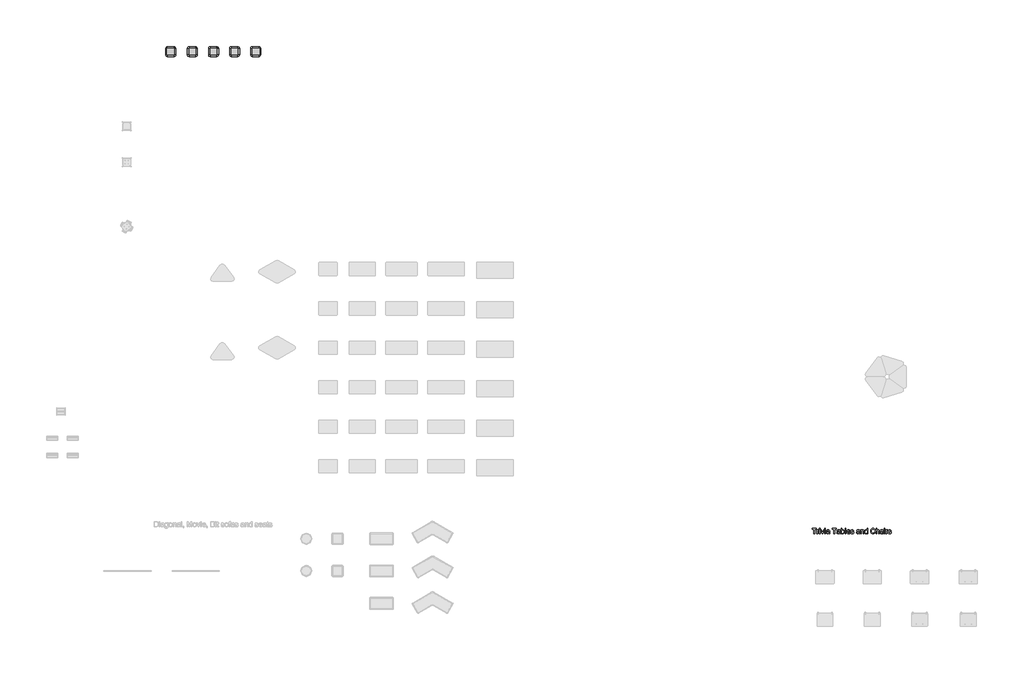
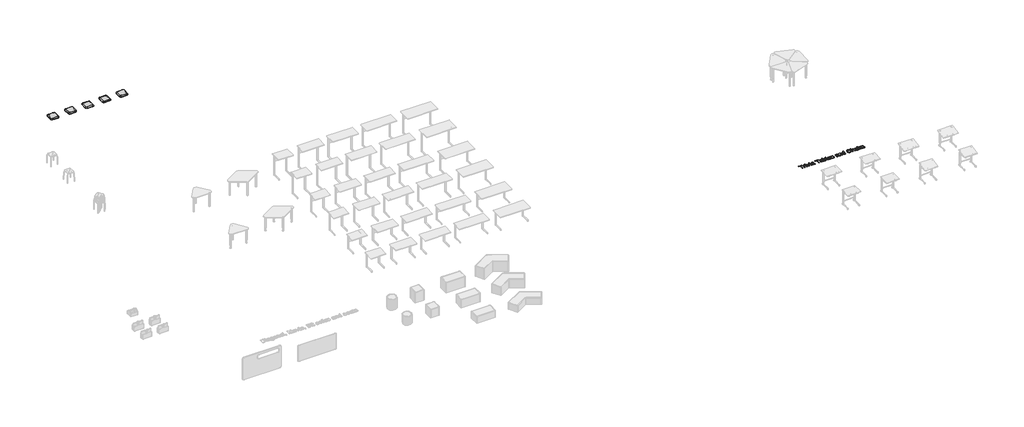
# One storey, part 3 of 3: 6 proxies.
"""IFC4 building model written with IfcOpenShell, lengths in millimetres."""

from ifc_helpers import new_model, si_unit, origin, origin_with_axes, place, context, project, spatial, polyline, outline, extrude, transform, mapped, element, save
from components import family1_family1_ad3effce

model = new_model("IFC4")

# Units and contexts
model_context = context("Model", 3, world=origin())
ifc_project = project(units=[si_unit("LENGTHUNIT", "METRE", prefix="MILLI")], contexts=[model_context])

# Site, building, storey
site = spatial("IfcSite", under=ifc_project)
building = spatial("IfcBuilding", under=site)
storey = spatial("IfcBuildingStorey", under=building, Name="Diagonal, Movie, Bit sofas and seats", Elevation=0.0)

# Proxies
placement = place(None, origin())
element("IfcBuildingElementProxy", 1, Name="200mm Arial", ObjectType="200mm Arial", at=placement, inside=storey, context=model_context, shape_type="SweptSolid", body=[
    extrude(outline(polyline([(-1376.2423033, 19310.0596878), (-1376.2423033, 19485.8582306), (-1442.1667568, 19485.8582306), (-1442.1667568, 19510.9723081), (-1285.2037722, 19510.9723081), (-1285.2037722, 19485.8582306), (-1351.1282257, 19485.8582306), (-1351.1282257, 19310.0596878), (-1376.2423033, 19310.0596878)])), origin_with_axes(), (0.0, 0.0, 1.0), 10.0),
    extrude(outline(polyline([(-1260.0896946, 19310.0596878), (-1260.0896946, 19457.6048934), (-1238.1148768, 19457.6048934), (-1238.1148768, 19435.7772283), (-1222.5166802, 19455.8881107), (-1206.8203817, 19460.7441531), (-1194.3123939, 19458.8066412), (-1181.6082023, 19452.9941057), (-1189.9959118, 19430.4797276), (-1207.6542476, 19435.6300755), (-1221.8544926, 19430.6759313), (-1230.9043897, 19416.9416702), (-1234.9756171, 19387.6092124), (-1234.9756171, 19310.0596878), (-1260.0896946, 19310.0596878)])), origin_with_axes(), (0.0, 0.0, 1.0), 10.0),
    extrude(outline(polyline([(-1165.9119039, 19485.8582306), (-1165.9119039, 19510.9723081), (-1140.7978263, 19510.9723081), (-1140.7978263, 19485.8582306), (-1165.9119039, 19485.8582306)])), origin_with_axes(), (0.0, 0.0, 1.0), 10.0),
    extrude(outline(polyline([(-1165.9119039, 19310.0596878), (-1165.9119039, 19457.6048934), (-1140.7978263, 19457.6048934), (-1140.7978263, 19310.0596878), (-1165.9119039, 19310.0596878)])), origin_with_axes(), (0.0, 0.0, 1.0), 10.0),
    extrude(outline(polyline([(-1066.9271217, 19310.0596878), (-1118.8230085, 19457.6048934), (-1092.237403, 19457.6048934), (-1060.7957551, 19369.2151127), (-1051.3289251, 19339.4902475), (-1042.0582988, 19367.5473809), (-1010.4204472, 19457.6048934), (-983.8348417, 19457.6048934), (-1035.0930664, 19310.0596878), (-1066.9271217, 19310.0596878)])), origin_with_axes(), (0.0, 0.0, 1.0), 10.0),
    extrude(outline(polyline([(-961.8600239, 19310.0596878), (-961.8600239, 19457.6048934), (-936.7459463, 19457.6048934), (-936.7459463, 19310.0596878), (-961.8600239, 19310.0596878)])), origin_with_axes(), (0.0, 0.0, 1.0), 10.0),
    extrude(outline(polyline([(-961.8600239, 19485.8582306), (-961.8600239, 19510.9723081), (-936.7459463, 19510.9723081), (-936.7459463, 19485.8582306), (-961.8600239, 19485.8582306)])), origin_with_axes(), (0.0, 0.0, 1.0), 10.0),
    extrude(outline(polyline([(-804.8970393, 19328.895246), (-829.2508274, 19311.8745723), (-856.1552639, 19306.9204281), (-877.1429318, 19309.9002723), (-892.6246324, 19318.8398048), (-902.1711702, 19332.4146504), (-905.3533494, 19349.300434), (-900.546358, 19369.1660617), (-887.9157429, 19383.5870359), (-870.3309835, 19391.8275926), (-848.6014203, 19395.6045144), (-805.0441921, 19404.2374786), (-804.8970393, 19409.8292849), (-806.6260847, 19421.037423), (-811.8132208, 19428.3705375), (-823.4137664, 19433.815191), (-839.5760487, 19435.6300755), (-854.5365832, 19434.4221963), (-864.9844318, 19430.7985587), (-872.1090798, 19424.096975), (-877.1000122, 19413.6552577), (-902.2140897, 19416.7945174), (-891.3493081, 19441.3199837), (-882.0909446, 19449.5728031), (-869.4725922, 19455.691907), (-836.3386871, 19460.7441531), (-805.9025834, 19456.2805182), (-788.7102315, 19445.0723801), (-781.0092351, 19428.027181), (-779.7829617, 19406.0523631), (-779.7829617, 19374.806919), (-778.5076375, 19331.1761144), (-773.5044424, 19310.0596878), (-798.6185199, 19310.0596878), (-804.8970393, 19328.895246)]), holes=[polyline([(-804.8970393, 19379.1234011), (-845.4131097, 19371.4224046), (-867.0200455, 19367.3511772), (-876.8057066, 19360.7293013), (-880.2392719, 19351.0662676), (-878.3692051, 19343.5982631), (-872.7590047, 19337.4791592), (-863.5312979, 19333.3956691), (-850.8087123, 19332.0345057), (-837.3197058, 19333.5366905), (-825.4003291, 19338.0432449), (-809.0173176, 19352.5868465), (-805.0441921, 19372.0110158), (-804.8970393, 19379.1234011)])]), origin_with_axes(), (0.0, 0.0, 1.0), 10.0),
    extrude(outline(polyline([(-613.4021981, 19310.0596878), (-613.4021981, 19485.8582306), (-679.3266516, 19485.8582306), (-679.3266516, 19510.9723081), (-522.363667, 19510.9723081), (-522.363667, 19485.8582306), (-588.2881205, 19485.8582306), (-588.2881205, 19310.0596878), (-613.4021981, 19310.0596878)])), origin_with_axes(), (0.0, 0.0, 1.0), 10.0),
    extrude(outline(polyline([(-403.0717987, 19328.895246), (-427.4255868, 19311.8745723), (-454.3300233, 19306.9204281), (-475.3176912, 19309.9002723), (-490.7993918, 19318.8398048), (-500.3459296, 19332.4146504), (-503.5281088, 19349.300434), (-498.7211174, 19369.1660617), (-486.0905023, 19383.5870359), (-468.5057429, 19391.8275926), (-446.7761797, 19395.6045144), (-403.2189515, 19404.2374786), (-403.0717987, 19409.8292849), (-404.8008441, 19421.037423), (-409.9879802, 19428.3705375), (-421.5885258, 19433.815191), (-437.7508081, 19435.6300755), (-452.7113426, 19434.4221963), (-463.1591912, 19430.7985587), (-470.2838392, 19424.096975), (-475.2747716, 19413.6552577), (-500.3888491, 19416.7945174), (-489.5240675, 19441.3199837), (-480.265704, 19449.5728031), (-467.6473516, 19455.691907), (-434.5134465, 19460.7441531), (-404.0773428, 19456.2805182), (-386.8849909, 19445.0723801), (-379.1839945, 19428.027181), (-377.9577211, 19406.0523631), (-377.9577211, 19374.806919), (-376.6823969, 19331.1761144), (-371.6792018, 19310.0596878), (-396.7932793, 19310.0596878), (-403.0717987, 19328.895246)]), holes=[polyline([(-403.0717987, 19379.1234011), (-443.5878691, 19371.4224046), (-465.1948049, 19367.3511772), (-474.980466, 19360.7293013), (-478.4140313, 19351.0662676), (-476.5439645, 19343.5982631), (-470.9337641, 19337.4791592), (-461.7060573, 19333.3956691), (-448.9834717, 19332.0345057), (-435.4944652, 19333.5366905), (-423.5750885, 19338.0432449), (-407.192077, 19352.5868465), (-403.2189515, 19372.0110158), (-403.0717987, 19379.1234011)])]), origin_with_axes(), (0.0, 0.0, 1.0), 10.0),
    extrude(outline(polyline([(-318.311787, 19310.0596878), (-343.4258645, 19310.0596878), (-343.4258645, 19510.9723081), (-318.311787, 19510.9723081), (-318.311787, 19436.4639414), (-300.7270276, 19454.6741001), (-290.3343613, 19459.2266398), (-278.8748371, 19460.7441531), (-253.7117086, 19455.2749741), (-234.1894374, 19439.8975067), (-222.1964844, 19415.985177), (-217.8554768, 19386.0395826), (-222.3497685, 19352.5132701), (-235.8326437, 19327.5708708), (-255.6185636, 19312.0830388), (-279.0219899, 19306.9204281), (-290.8585931, 19308.5850942), (-301.352427, 19313.5790923), (-310.5034916, 19321.9024224), (-318.311787, 19333.5550846), (-318.311787, 19310.0596878)]), holes=[polyline([(-318.311787, 19384.8623602), (-316.5950043, 19363.9176119), (-311.4446564, 19349.7418924), (-298.2867437, 19336.4613524), (-281.1802309, 19332.0345057), (-266.6856803, 19335.2963927), (-254.3003198, 19345.0820538), (-245.8022457, 19361.3301752), (-242.9695544, 19383.9794434), (-245.6857498, 19406.9598054), (-253.834336, 19423.0239858), (-265.8334204, 19432.4785531), (-280.1011104, 19435.6300755), (-294.595661, 19432.3681885), (-306.9810215, 19422.5825274), (-315.4790956, 19406.6287116), (-318.311787, 19384.8623602)])]), origin_with_axes(), (0.0, 0.0, 1.0), 10.0),
    extrude(outline(polyline([(-189.6021396, 19310.0596878), (-189.6021396, 19510.9723081), (-164.4880621, 19510.9723081), (-164.4880621, 19310.0596878), (-189.6021396, 19310.0596878)])), origin_with_axes(), (0.0, 0.0, 1.0), 10.0),
    extrude(outline(polyline([(-23.5156815, 19354.0093235), (1.1078867, 19350.8700638), (-7.7642008, 19332.3165485), (-21.9215262, 19318.4473973), (-41.0452586, 19309.8021704), (-64.8165668, 19306.9204281), (-94.2839147, 19311.8929664), (-116.9577083, 19326.8105814), (-131.4154707, 19350.7045169), (-136.2347248, 19382.6060173), (-131.3664198, 19415.5805068), (-116.7615046, 19440.2408632), (-94.3942793, 19455.6183306), (-66.2390439, 19460.7441531), (-38.960594, 19455.6305933), (-17.1635857, 19440.2899141), (-2.8713702, 19415.6786087), (1.8927016, 19382.7531701), (1.7455488, 19375.9841414), (-111.1206473, 19375.9841414), (-106.7735084, 19357.1853714), (-96.6751476, 19343.3652711), (-82.1008893, 19334.867197), (-64.3260575, 19332.0345057), (-39.7024893, 19337.2829555), (-30.5544904, 19344.0887724), (-23.5156815, 19354.0093235)]), holes=[polyline([(-111.1206473, 19401.0982189), (-23.2213759, 19401.0982189), (-26.618153, 19414.3664962), (-33.2768171, 19423.8578517), (-47.9185205, 19432.6870196), (-66.3371458, 19435.6300755), (-83.2658489, 19433.2817621), (-97.2637588, 19426.2368219), (-106.9942376, 19415.2555444), (-111.1206473, 19401.0982189)])]), origin_with_axes(), (0.0, 0.0, 1.0), 10.0),
    extrude(outline(polyline([(17.5890001, 19354.0093235), (42.7030776, 19357.1485832), (46.6639404, 19346.406429), (54.3281487, 19338.5092288), (65.7447532, 19333.6531865), (80.9628051, 19332.0345057), (95.996916, 19333.5182964), (106.567392, 19337.9696685), (112.8213859, 19344.4198662), (114.9060505, 19351.9001334), (112.8091232, 19358.3012801), (106.518341, 19363.1818479), (80.6684995, 19370.3432841), (42.8502304, 19382.6305428), (33.2791672, 19388.8048289), (26.3445916, 19396.9779406), (20.7282598, 19417.2359758), (25.2409456, 19435.9489066), (37.5527297, 19450.2472535), (53.5188083, 19457.6784698), (75.1257441, 19460.7441531), (105.6844752, 19455.8145343), (117.1133425, 19450.0142615), (125.1086445, 19442.4726806), (133.7416087, 19419.9337771), (108.6275311, 19416.7945174), (105.4576146, 19424.6978489), (99.1852266, 19430.6514059), (77.0877814, 19435.6300755), (62.6668072, 19434.4405904), (53.0528244, 19430.8721351), (47.6449591, 19425.7217871), (45.8423373, 19419.7866243), (48.8344442, 19412.4780353), (58.2031723, 19406.9352799), (79.8346337, 19401.5887282), (116.6964096, 19389.7674535), (133.8151851, 19376.3765488), (138.4688923, 19366.5295741), (140.0201281, 19354.5488838), (138.1991122, 19342.1635233), (132.7360646, 19330.5139268), (123.8394516, 19320.5136679), (111.7177399, 19313.0763202), (97.0760365, 19308.4594012), (80.6194486, 19306.9204281), (55.2969046, 19309.8880096), (36.8169657, 19318.7907539), (24.4806561, 19333.5305591), (17.5890001, 19354.0093235)])), origin_with_axes(), (0.0, 0.0, 1.0), 10.0),
    extrude(outline(polyline([(340.9327484, 19328.895246), (316.5789603, 19311.8745723), (289.6745237, 19306.9204281), (268.6868559, 19309.9002723), (253.2051553, 19318.8398048), (243.6586175, 19332.4146504), (240.4764382, 19349.300434), (245.2834296, 19369.1660617), (257.9140448, 19383.5870359), (275.4988042, 19391.8275926), (297.2283673, 19395.6045144), (340.7855956, 19404.2374786), (340.9327484, 19409.8292849), (339.203703, 19421.037423), (334.0165669, 19428.3705375), (322.4160213, 19433.815191), (306.253739, 19435.6300755), (291.2932045, 19434.4221963), (280.8453558, 19430.7985587), (273.7207078, 19424.096975), (268.7297754, 19413.6552577), (243.6156979, 19416.7945174), (254.4804795, 19441.3199837), (263.738843, 19449.5728031), (276.3571955, 19455.691907), (309.4911005, 19460.7441531), (339.9272042, 19456.2805182), (357.1195562, 19445.0723801), (364.8205526, 19428.027181), (366.0468259, 19406.0523631), (366.0468259, 19374.806919), (367.3221502, 19331.1761144), (372.3253453, 19310.0596878), (347.2112678, 19310.0596878), (340.9327484, 19328.895246)]), holes=[polyline([(340.9327484, 19379.1234011), (300.416678, 19371.4224046), (278.8097421, 19367.3511772), (269.024081, 19360.7293013), (265.5905158, 19351.0662676), (267.4605826, 19343.5982631), (273.070783, 19337.4791592), (282.2984897, 19333.3956691), (295.0210754, 19332.0345057), (308.5100819, 19333.5366905), (320.4294585, 19338.0432449), (336.81247, 19352.5868465), (340.7855956, 19372.0110158), (340.9327484, 19379.1234011)])]), origin_with_axes(), (0.0, 0.0, 1.0), 10.0),
    extrude(outline(polyline([(400.5786825, 19310.0596878), (400.5786825, 19457.6048934), (425.6927601, 19457.6048934), (425.6927601, 19437.0035016), (434.4176947, 19447.3900366), (444.8962002, 19454.8089902), (457.1282765, 19459.2603623), (471.1139237, 19460.7441531), (494.8300497, 19455.9616871), (511.0168575, 19443.4046484), (518.5461756, 19424.9369722), (519.8705508, 19400.6567605), (519.8705508, 19310.0596878), (494.7564733, 19310.0596878), (494.7564733, 19397.2722462), (491.8624683, 19419.4923187), (481.6353488, 19431.240017), (464.3939459, 19435.6300755), (449.6847975, 19433.1652662), (437.1461528, 19425.7708381), (428.5561083, 19411.4847539), (425.6927601, 19388.3449764), (425.6927601, 19310.0596878), (400.5786825, 19310.0596878)])), origin_with_axes(), (0.0, 0.0, 1.0), 10.0),
    extrude(outline(polyline([(645.4409385, 19310.0596878), (645.4409385, 19333.7512883), (637.9269488, 19322.012787), (628.8249351, 19313.6281432), (618.1348974, 19308.5973569), (605.8568358, 19306.9204281), (589.6209771, 19309.3484493), (574.7585445, 19316.6325128), (562.1769803, 19328.2637152), (552.7837267, 19343.7331531), (546.9344029, 19362.4154271), (544.9846284, 19383.6851378), (546.7811188, 19404.6911997), (552.17059, 19423.6616479), (561.1469107, 19439.5173619), (573.7039494, 19451.1792212), (588.8913445, 19458.3529201), (605.758734, 19460.7441531), (618.0459926, 19459.0335018), (628.9107742, 19453.901548), (645.4409385, 19436.1205849), (645.4409385, 19510.9723081), (670.555016, 19510.9723081), (670.555016, 19310.0596878), (645.4409385, 19310.0596878)]), holes=[polyline([(570.0987059, 19383.7832397), (572.9313973, 19361.0665265), (581.4294713, 19344.9103755), (593.7780437, 19335.2534731), (608.1622297, 19332.0345057), (622.5402843, 19335.1063203), (634.5761569, 19344.3217643), (642.7247431, 19359.8525159), (645.4409385, 19381.8702533), (642.6756922, 19405.9419985), (634.3799532, 19422.6315784), (622.0375122, 19432.3804512), (607.1321601, 19435.6300755), (592.6008213, 19432.5092099), (580.6937074, 19423.1466132), (572.7474563, 19407.0640386), (570.0987059, 19383.7832397)])]), origin_with_axes(), (0.0, 0.0, 1.0), 10.0),
    extrude(outline(polyline([(931.1135705, 19381.4778458), (956.227648, 19375.0031227), (944.6393652, 19345.73811), (926.4537319, 19324.3580347), (902.5659277, 19311.2798298), (873.871132, 19306.9204281), (844.7410094, 19310.2191034), (821.6073633, 19320.115129), (803.8754511, 19336.2651486), (790.9505303, 19358.3258056), (783.0594615, 19384.2614863), (780.4291053, 19412.0365769), (783.4028181, 19441.3322464), (792.3239564, 19466.630265), (806.7265366, 19487.1274235), (826.1445745, 19502.0205129), (849.1739874, 19511.0888041), (874.4106923, 19514.1115678), (901.9466596, 19510.1997559), (924.7124238, 19498.4643203), (941.9967462, 19479.6287621), (953.0883883, 19454.4165827), (927.9743108, 19448.432369), (919.2677703, 19466.7467609), (907.3729191, 19479.3099311), (892.1426045, 19486.5756005), (873.4296737, 19488.9974903), (851.859526, 19486.3119517), (834.1398766, 19478.255336), (820.6937896, 19465.6737718), (811.9443295, 19449.4133876), (807.1434695, 19431.0315506), (805.5431828, 19412.0856278), (807.4377751, 19388.8845367), (813.1215519, 19368.8227052), (822.8091111, 19352.6665542), (836.7150505, 19341.1825046), (853.3862363, 19334.3215054), (871.3695345, 19332.0345057), (892.3326768, 19335.1492399), (909.8009402, 19344.4934426), (922.9895098, 19359.9690118), (931.1135705, 19381.4778458)])), origin_with_axes(), (0.0, 0.0, 1.0), 10.0),
    extrude(outline(polyline([(987.620245, 19310.0596878), (987.620245, 19510.9723081), (1012.7343225, 19510.9723081), (1012.7343225, 19437.1016035), (1032.3179074, 19454.8335157), (1056.4387035, 19460.7441531), (1071.6077045, 19459.1316036), (1084.6429898, 19454.2939554), (1094.9068975, 19446.6113531), (1101.7617653, 19436.4639414), (1105.6245263, 19422.5212138), (1106.9121133, 19403.4526637), (1106.9121133, 19310.0596878), (1081.7980357, 19310.0596878), (1081.7980357, 19400.8529642), (1079.7992102, 19416.5737882), (1073.8027337, 19427.3404679), (1064.1397, 19433.5576736), (1051.1412028, 19435.6300755), (1030.5643365, 19430.0382692), (1022.3115171, 19423.4531815), (1016.8300754, 19414.881531), (1012.7343225, 19388.4430783), (1012.7343225, 19310.0596878), (987.620245, 19310.0596878)])), origin_with_axes(), (0.0, 0.0, 1.0), 10.0),
    extrude(outline(polyline([(1235.6217606, 19328.895246), (1211.2679726, 19311.8745723), (1184.363536, 19306.9204281), (1163.3758682, 19309.9002723), (1147.8941675, 19318.8398048), (1138.3476297, 19332.4146504), (1135.1654505, 19349.300434), (1139.9724419, 19369.1660617), (1152.6030571, 19383.5870359), (1170.1878164, 19391.8275926), (1191.9173796, 19395.6045144), (1235.4746078, 19404.2374786), (1235.6217606, 19409.8292849), (1233.8927153, 19421.037423), (1228.7055791, 19428.3705375), (1217.1050335, 19433.815191), (1200.9427512, 19435.6300755), (1185.9822168, 19434.4221963), (1175.5343681, 19430.7985587), (1168.4097201, 19424.096975), (1163.4187877, 19413.6552577), (1138.3047102, 19416.7945174), (1149.1694918, 19441.3199837), (1158.4278553, 19449.5728031), (1171.0462078, 19455.691907), (1204.1801128, 19460.7441531), (1234.6162165, 19456.2805182), (1251.8085684, 19445.0723801), (1259.5095649, 19428.027181), (1260.7358382, 19406.0523631), (1260.7358382, 19374.806919), (1262.0111624, 19331.1761144), (1267.0143576, 19310.0596878), (1241.90028, 19310.0596878), (1235.6217606, 19328.895246)]), holes=[polyline([(1235.6217606, 19379.1234011), (1195.1056902, 19371.4224046), (1173.4987544, 19367.3511772), (1163.7130933, 19360.7293013), (1160.279528, 19351.0662676), (1162.1495948, 19343.5982631), (1167.7597953, 19337.4791592), (1176.987502, 19333.3956691), (1189.7100876, 19332.0345057), (1203.1990941, 19333.5366905), (1215.1184708, 19338.0432449), (1231.5014823, 19352.5868465), (1235.4746078, 19372.0110158), (1235.6217606, 19379.1234011)])]), origin_with_axes(), (0.0, 0.0, 1.0), 10.0),
    extrude(outline(polyline([(1295.2676948, 19310.0596878), (1295.2676948, 19457.6048934), (1320.3817723, 19457.6048934), (1320.3817723, 19310.0596878), (1295.2676948, 19310.0596878)])), origin_with_axes(), (0.0, 0.0, 1.0), 10.0),
    extrude(outline(polyline([(1295.2676948, 19485.8582306), (1295.2676948, 19510.9723081), (1320.3817723, 19510.9723081), (1320.3817723, 19485.8582306), (1295.2676948, 19485.8582306)])), origin_with_axes(), (0.0, 0.0, 1.0), 10.0),
    extrude(outline(polyline([(1358.0528886, 19310.0596878), (1358.0528886, 19457.6048934), (1380.0277065, 19457.6048934), (1380.0277065, 19435.7772283), (1395.6259031, 19455.8881107), (1411.3222015, 19460.7441531), (1423.8301894, 19458.8066412), (1436.5343809, 19452.9941057), (1428.1466714, 19430.4797276), (1410.4883357, 19435.6300755), (1396.2880907, 19430.6759313), (1387.2381936, 19416.9416702), (1383.1669662, 19387.6092124), (1383.1669662, 19310.0596878), (1358.0528886, 19310.0596878)])), origin_with_axes(), (0.0, 0.0, 1.0), 10.0),
    extrude(outline(polyline([(1442.8129003, 19354.0093235), (1467.9269779, 19357.1485832), (1471.8878407, 19346.406429), (1479.5520489, 19338.5092288), (1490.9686535, 19333.6531865), (1506.1867054, 19332.0345057), (1521.2208162, 19333.5182964), (1531.7912922, 19337.9696685), (1538.0452861, 19344.4198662), (1540.1299508, 19351.9001334), (1538.0330234, 19358.3012801), (1531.7422413, 19363.1818479), (1505.8923998, 19370.3432841), (1468.0741307, 19382.6305428), (1458.5030674, 19388.8048289), (1451.5684918, 19396.9779406), (1445.95216, 19417.2359758), (1450.4648458, 19435.9489066), (1462.7766299, 19450.2472535), (1478.7427085, 19457.6784698), (1500.3496444, 19460.7441531), (1530.9083754, 19455.8145343), (1542.3372427, 19450.0142615), (1550.3325448, 19442.4726806), (1558.9655089, 19419.9337771), (1533.8514314, 19416.7945174), (1530.6815149, 19424.6978489), (1524.4091269, 19430.6514059), (1502.3116817, 19435.6300755), (1487.8907075, 19434.4405904), (1478.2767247, 19430.8721351), (1472.8688593, 19425.7217871), (1471.0662376, 19419.7866243), (1474.0583444, 19412.4780353), (1483.4270726, 19406.9352799), (1505.0585339, 19401.5887282), (1541.9203098, 19389.7674535), (1559.0390853, 19376.3765488), (1563.6927926, 19366.5295741), (1565.2440283, 19354.5488838), (1563.4230124, 19342.1635233), (1557.9599648, 19330.5139268), (1549.0633519, 19320.5136679), (1536.9416402, 19313.0763202), (1522.2999367, 19308.4594012), (1505.8433488, 19306.9204281), (1480.5208048, 19309.8880096), (1462.0408659, 19318.7907539), (1449.7045564, 19333.5305591), (1442.8129003, 19354.0093235)])), origin_with_axes(), (0.0, 0.0, 1.0), 10.0),
])
family1_family1_shape = family1_family1_ad3effce(model_context)
element("IfcBuildingElementProxy", 2, Name="Family1 : Family1", ObjectType="Family1 : Family1", at=placement, inside=storey, context=model_context, shape_type="MappedRepresentation", body=[
    mapped(family1_family1_shape, transform((-24997.4550405, 37637.2831725, 0.0), x_axis=(1.0, 0.0, 0.0), y_axis=(0.0, 1.0, 0.0), z_axis=(0.0, 0.0, 1.0))),
])
element("IfcBuildingElementProxy", 3, Name="Family1 : Family1", ObjectType="Family1 : Family1", at=placement, inside=storey, context=model_context, shape_type="MappedRepresentation", body=[
    mapped(family1_family1_shape, transform((-24197.4550405, 37637.2831725, 0.0), x_axis=(1.0, 0.0, 0.0), y_axis=(0.0, 1.0, 0.0), z_axis=(0.0, 0.0, 1.0))),
])
element("IfcBuildingElementProxy", 4, Name="Family1 : Family1", ObjectType="Family1 : Family1", at=placement, inside=storey, context=model_context, shape_type="MappedRepresentation", body=[
    mapped(family1_family1_shape, transform((-23397.4550405, 37637.2831725, 0.0), x_axis=(1.0, 0.0, 0.0), y_axis=(0.0, 1.0, 0.0), z_axis=(0.0, 0.0, 1.0))),
])
element("IfcBuildingElementProxy", 5, Name="Family1 : Family1", ObjectType="Family1 : Family1", at=placement, inside=storey, context=model_context, shape_type="MappedRepresentation", body=[
    mapped(family1_family1_shape, transform((-22597.4550405, 37637.2831725, 0.0), x_axis=(1.0, 0.0, 0.0), y_axis=(0.0, 1.0, 0.0), z_axis=(0.0, 0.0, 1.0))),
])
element("IfcBuildingElementProxy", 6, Name="Family1 : Family1", ObjectType="Family1 : Family1", at=placement, inside=storey, context=model_context, shape_type="MappedRepresentation", body=[
    mapped(family1_family1_shape, transform((-25817.4550405, 37637.2831725, 0.0), x_axis=(1.0, 0.0, 0.0), y_axis=(0.0, 1.0, 0.0), z_axis=(0.0, 0.0, 1.0))),
])

save(model, "model.ifc")
